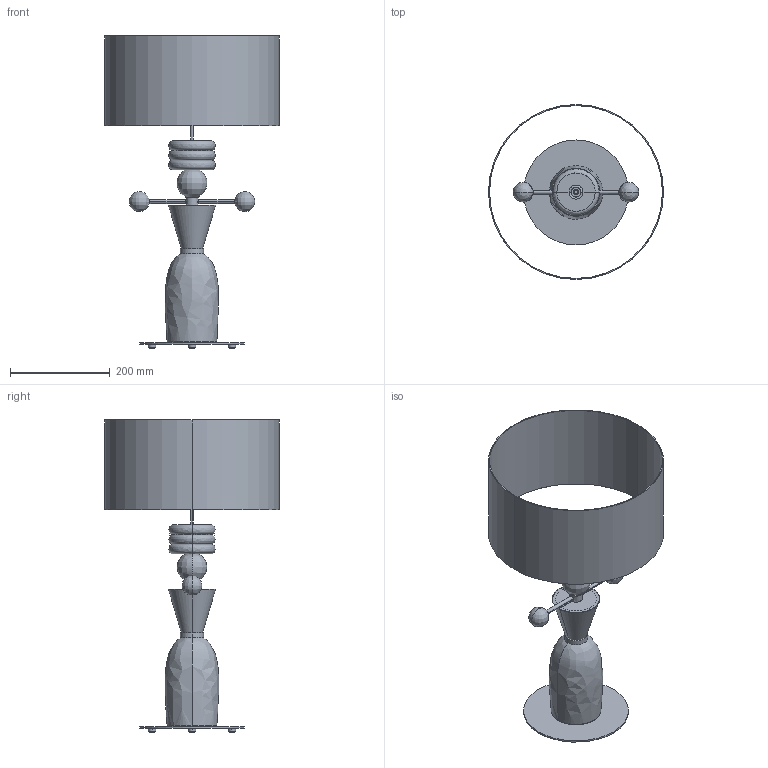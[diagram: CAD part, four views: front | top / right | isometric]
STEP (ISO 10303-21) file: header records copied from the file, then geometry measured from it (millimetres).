
FILE_DESCRIPTION (( 'STEP AP214' ), '1' );
FILE_NAME ('NURO_S1349.STEP', '2025-09-04T15:05:54', ( '' ), ( '' ), 'SwSTEP 2.0', 'SolidWorks 2018', '' );
FILE_SCHEMA (( 'AUTOMOTIVE_DESIGN' ));
Length unit declared in the file: millimetre
Products named in the file (1): NURO_S1349
Bounding box: 350 x 350 x 624.49 mm (x, y, z)
Surface area: 824796.7 mm2 (no closed solid volume)
Topology: 0 solids, 81 shells, 742 faces, 1617 edges, 972 vertices
Faces by surface type: bspline 701, cylinder 18, plane 15, torus 8
Entity records: 35206 total; most frequent: CARTESIAN_POINT 25746, ORIENTED_EDGE 2974, EDGE_CURVE 1606, VERTEX_POINT 972, EDGE_LOOP 799, B_SPLINE_CURVE_WITH_KNOTS 790, ADVANCED_FACE 741, FACE_OUTER_BOUND 741
